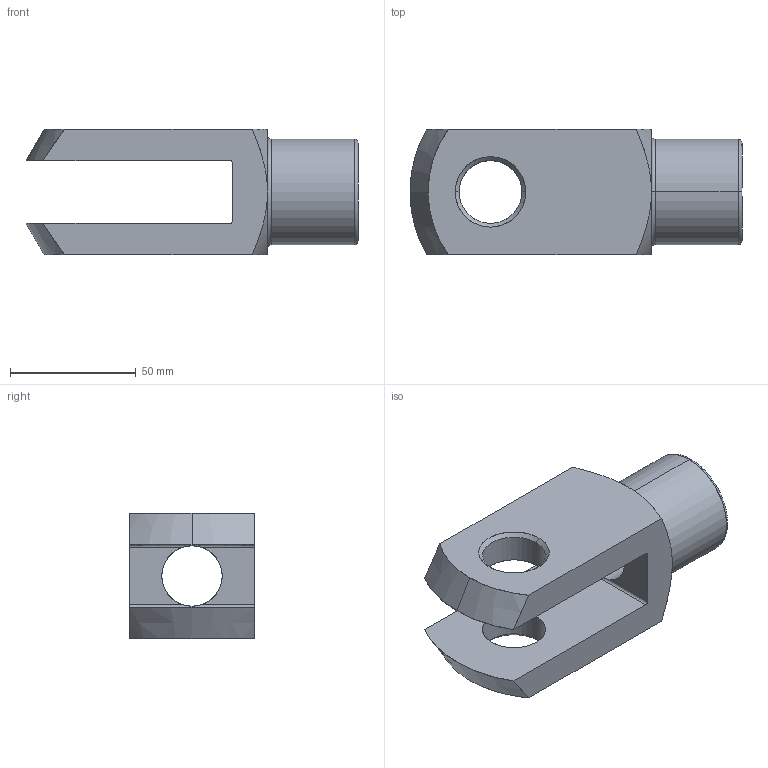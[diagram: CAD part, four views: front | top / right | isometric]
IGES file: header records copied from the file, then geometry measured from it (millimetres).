
Start section: SolidWorks IGES file using analytic representation for surfaces
Global section: file name: C:\Documents and Settings\IANO\My Documents\Wix and Auto CAD Work\CAD Models\Parametric Models\Wix Models\60000\65635_v2\65635_v2_IGES\65635.W0255.igs; native system: SolidWorks 2009; preprocessor: SolidWorks 2009; author: IANO; date: 140117.130827; units: millimetre
Bounding box: 132 x 50 x 50 mm (x, y, z)
Surface area: 33696.4 mm2 (no closed solid volume)
Topology: 0 solids, 0 shells, 37 faces, 798 edges, 798 vertices
Faces by surface type: revolution 23, bspline 14
